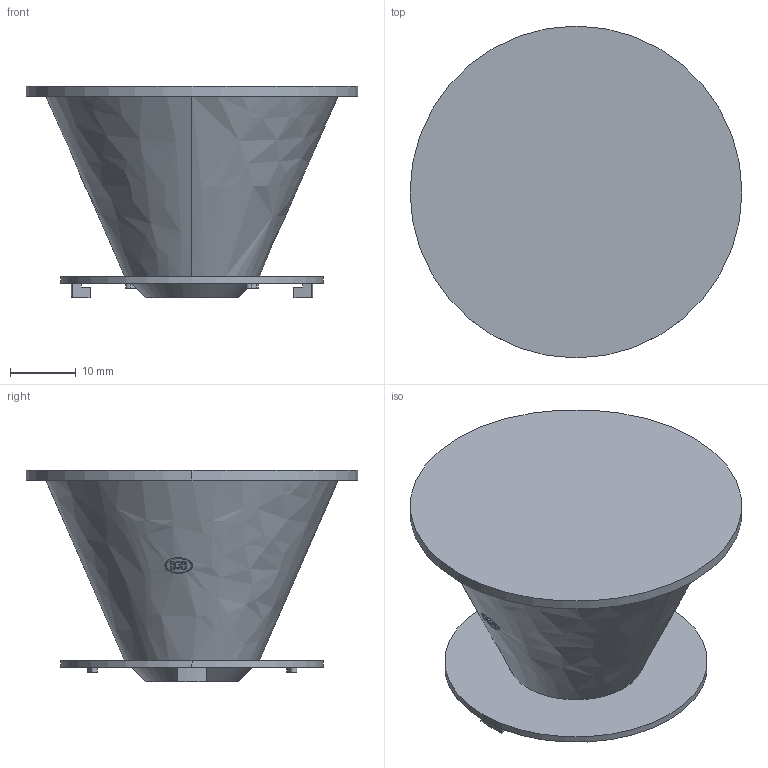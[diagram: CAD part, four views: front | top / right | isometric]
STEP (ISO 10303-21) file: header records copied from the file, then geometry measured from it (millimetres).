
FILE_DESCRIPTION((' '),'1');
FILE_NAME('01WYA09Y09.stp','2014-11-20 T11:55:58',(''),(''),'STEP Interface 2013.192 by CT CoreTechnologie','3D_Evolution2013.192 by CT CoreTechnologie','');
FILE_SCHEMA(('AP203_CONFIGURATION_CONTROLLED_3D_DESIGN_OF_MECHANICAL_PARTS_AND_ASSEMBLIES_MIM_LF'));
Length unit declared in the file: millimetre
Products named in the file (1): 01WYA09Y09
Bounding box: 50.5 x 50.5 x 32.2 mm (x, y, z)
Volume: 28586.7 mm3; surface area: 8196.6 mm2
Topology: 1 solids, 1 shells, 84 faces, 198 edges, 132 vertices
Faces by surface type: plane 46, cylinder 22, bspline 16
Entity records: 3390 total; most frequent: CARTESIAN_POINT 801, ORIENTED_EDGE 396, DIRECTION 368, EDGE_CURVE 198, VERTEX_POINT 132, VECTOR 130, LINE 130, AXIS2_PLACEMENT_3D 119
